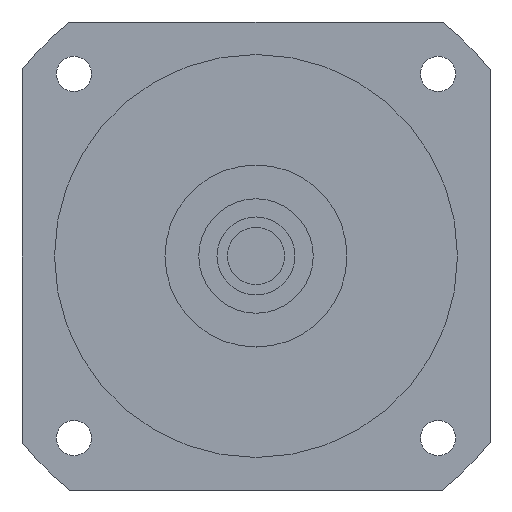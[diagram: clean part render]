
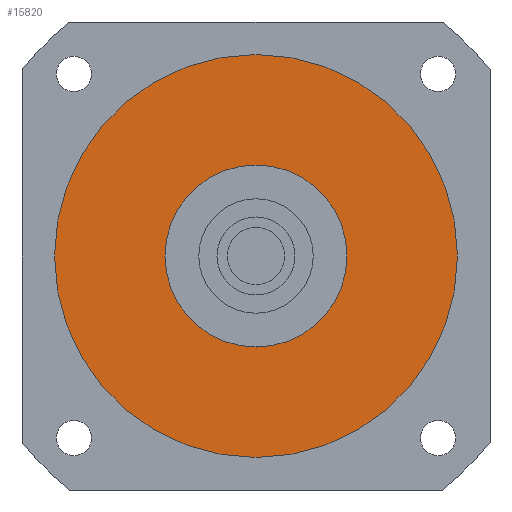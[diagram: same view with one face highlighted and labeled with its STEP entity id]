
A CAD part, left-side view. The second image highlights one B-rep face of the part: STEP entity #15820.
In plain terms, the highlighted planar face has unit normal (-1, 0, 0) as drawn and (0, 0, -1) by its records, which use the part's own axes.
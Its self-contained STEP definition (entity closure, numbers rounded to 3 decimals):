
#15240=CARTESIAN_POINT('',(77.5,0.,-59.7));
#15250=VERTEX_POINT('',#15240);
#15340=CARTESIAN_POINT('',(-77.5,0.,-59.7));
#15350=VERTEX_POINT('',#15340);
#15380=CARTESIAN_POINT('',(0.,0.,
-59.7));
#15390=DIRECTION('',(0.,0.,1.));
#15400=DIRECTION('',(0.,1.,0.));
#15410=AXIS2_PLACEMENT_3D('',#15380,#15390,#15400);
#15420=CIRCLE('',#15410,77.5);
#15430=CARTESIAN_POINT('',(0.,77.5,-59.7));
#15440=VERTEX_POINT('',#15430);
#15450=EDGE_CURVE('',#15440,#15350,#15420,.T.);
#15470=EDGE_CURVE('',#15250,#15440,#15420,.T.);
#15520=CARTESIAN_POINT('',(0.,0.,
-59.7));
#15530=DIRECTION('',(0.,0.,1.));
#15540=DIRECTION('',(-1.,0.,0.));
#15550=AXIS2_PLACEMENT_3D('',#15520,#15530,#15540);
#15560=PLANE('',#15550);
#15570=ORIENTED_EDGE('',*,*,#15450,.F.);
#15580=EDGE_CURVE('',#15350,#15250,#15420,.T.);
#15590=ORIENTED_EDGE('',*,*,#15580,.F.);
#15600=ORIENTED_EDGE('',*,*,#15470,.F.);
#15610=EDGE_LOOP('',(#15600,#15590,#15570));
#15620=FACE_OUTER_BOUND('',#15610,.T.);
#15630=CARTESIAN_POINT('',(0.,0.,
-59.7));
#15640=DIRECTION('',(0.,0.,1.));
#15650=DIRECTION('',(0.,1.,0.));
#15660=AXIS2_PLACEMENT_3D('',#15630,#15640,#15650);
#15670=CIRCLE('',#15660,35.);
#15680=CARTESIAN_POINT('',(-35.,0.,-59.7));
#15690=VERTEX_POINT('',#15680);
#15700=CARTESIAN_POINT('',(35.,0.,-59.7));
#15710=VERTEX_POINT('',#15700);
#15720=EDGE_CURVE('',#15690,#15710,#15670,.T.);
#15730=ORIENTED_EDGE('',*,*,#15720,.T.);
#15740=CARTESIAN_POINT('',(0.,35.,-59.7));
#15750=VERTEX_POINT('',#15740);
#15760=EDGE_CURVE('',#15750,#15690,#15670,.T.);
#15770=ORIENTED_EDGE('',*,*,#15760,.T.);
#15780=EDGE_CURVE('',#15710,#15750,#15670,.T.);
#15790=ORIENTED_EDGE('',*,*,#15780,.T.);
#15800=EDGE_LOOP('',(#15790,#15770,#15730));
#15810=FACE_BOUND('',#15800,.T.);
#15820=ADVANCED_FACE('',(#15620,#15810),#15560,.F.);
